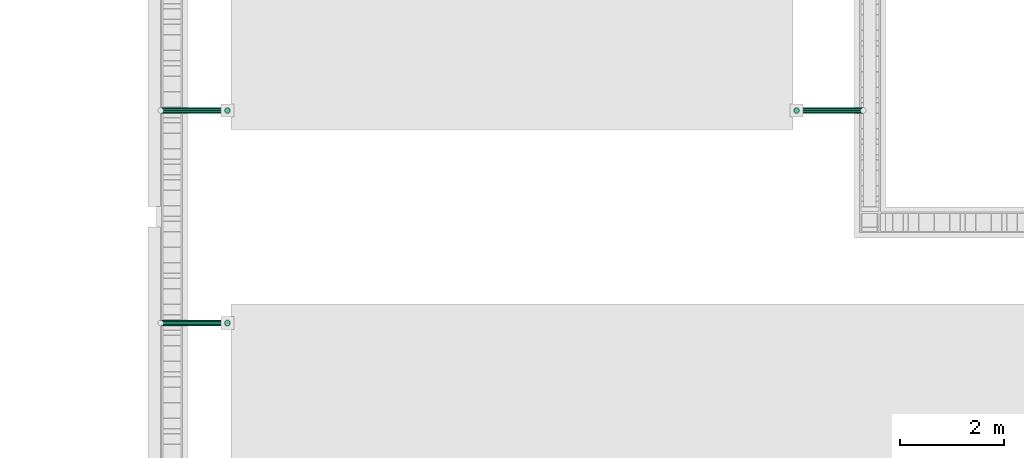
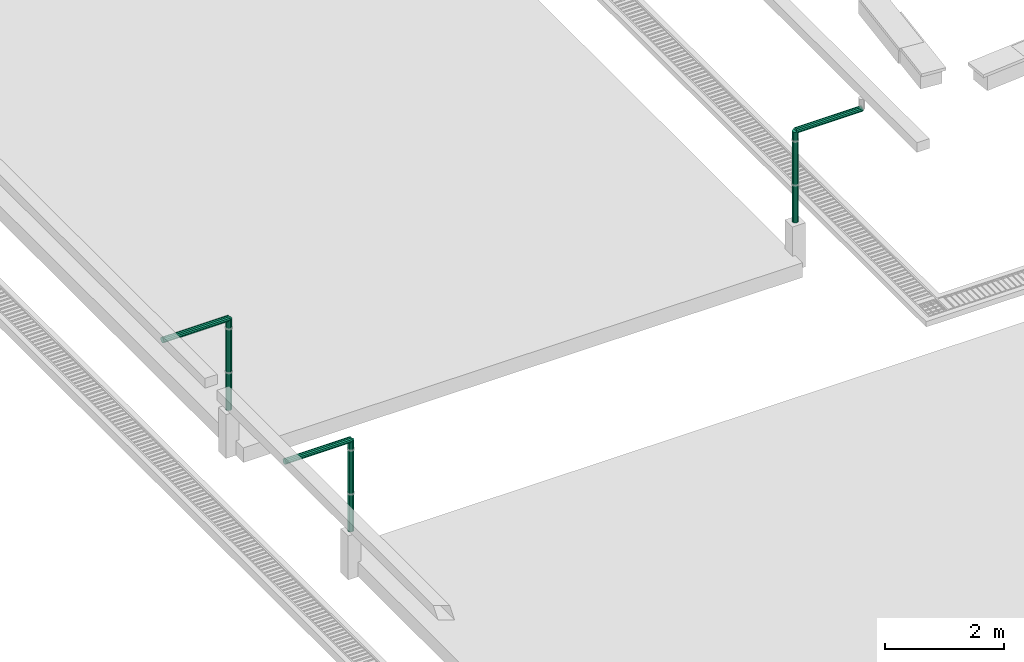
# One storey, part 33 of 90: 6 flow segments.
"""IFC2X3 building model written with IfcOpenShell, lengths in metres."""

import ifcopenshell
import ifcopenshell.guid

model = None  # the IFC model being written
_history = None  # IfcOwnerHistory: only IFC2X3 demands one
_inside = {}  # id of a spatial element -> (the spatial element, [elements in it])
_under = {}  # id of a project, library or spatial element -> (it, [spatial elements below it])
_declared = {}  # id of a project -> (the project, [libraries it declares])
_typed = {}  # id of a type object -> (the type object, [elements of that type])
_made_of = {}  # id of a material, layer set ... -> (it, [elements and type objects made of it])


def new_model(schema):
    """Start an empty IFC model of exactly this schema.

    Asked for "IFC4X3", IfcOpenShell would pick the latest addendum, in which some entities
    have other attributes; the version numbers below select the first issue.
    IFC2X3 requires an IfcOwnerHistory on every rooted entity: one is made here for all.
    """
    global model, _history
    if schema == "IFC4X3":
        model = ifcopenshell.file(schema_version=(4, 3, 0, 0))
    else:
        model = ifcopenshell.file(schema=schema)
    _inside.clear()
    _under.clear()
    _declared.clear()
    _typed.clear()
    _made_of.clear()
    _history = None
    if model.schema == "IFC2X3":
        org = make("IfcOrganization", Name="unknown")
        user = make(
            "IfcPersonAndOrganization",
            ThePerson=make("IfcPerson", FamilyName="unknown"),
            TheOrganization=org,
        )
        app = make(
            "IfcApplication",
            ApplicationDeveloper=org,
            Version="unknown",
            ApplicationFullName="unknown",
            ApplicationIdentifier="unknown",
        )
        _history = make(
            "IfcOwnerHistory",
            OwningUser=user,
            OwningApplication=app,
            ChangeAction="ADDED",
            CreationDate=0,
        )
    return model


def make(cls, **values):
    """One entity of the class cls with the attributes given. An attribute that is None is left unset."""
    return model.create_entity(
        cls, **{name: value for name, value in values.items() if value is not None}
    )


def rooted(cls, **values):
    """An entity with a GlobalId (a new one), such as an element, a storey or a relation."""
    return make(cls, GlobalId=ifcopenshell.guid.new(), OwnerHistory=_history, **values)


def si_unit(unit_type, name, prefix=None):
    """IfcSIUnit, for example si_unit("LENGTHUNIT", "METRE", prefix="MILLI")."""
    return make("IfcSIUnit", UnitType=unit_type, Prefix=prefix, Name=name)


def assignment(units):
    """IfcUnitAssignment: the units of a project."""
    return None if units is None else make("IfcUnitAssignment", Units=units)


def point(xyz):
    """IfcCartesianPoint."""
    return None if xyz is None else make("IfcCartesianPoint", Coordinates=xyz)


def direction(xyz):
    """IfcDirection."""
    return None if xyz is None else make("IfcDirection", DirectionRatios=xyz)


def frame(location, z_axis=None, x_axis=None):
    """IfcAxis2Placement3D, a coordinate frame: its origin and axes. An axis left out is left unset."""
    return make(
        "IfcAxis2Placement3D",
        Location=point(location),
        Axis=direction(z_axis),
        RefDirection=direction(x_axis),
    )


def origin():
    """The frame at (0, 0, 0) with its axes left unset."""
    return frame((0.0, 0.0, 0.0))


def origin_with_axes():
    """The frame at (0, 0, 0) with the z axis (0, 0, 1) and the x axis (1, 0, 0) written out."""
    return frame((0.0, 0.0, 0.0), z_axis=(0.0, 0.0, 1.0), x_axis=(1.0, 0.0, 0.0))


def place(relative_to, where):
    """IfcLocalPlacement: puts the frame where relative to a parent placement (None: the world)."""
    return make(
        "IfcLocalPlacement", PlacementRelTo=relative_to, RelativePlacement=where
    )


def context(
    kind, dimensions, precision=None, world=None, true_north=None, identifier=None
):
    """IfcGeometricRepresentationContext, for example the 3D "Model" context."""
    return make(
        "IfcGeometricRepresentationContext",
        ContextIdentifier=identifier,
        ContextType=kind,
        CoordinateSpaceDimension=dimensions,
        Precision=precision,
        WorldCoordinateSystem=world,
        TrueNorth=true_north,
    )


def subcontext(parent, identifier, kind, view, scale=None):
    """IfcGeometricRepresentationSubContext, for example "Body" below "Model"."""
    return make(
        "IfcGeometricRepresentationSubContext",
        ContextIdentifier=identifier,
        ContextType=kind,
        ParentContext=parent,
        TargetScale=scale,
        TargetView=view,
    )


def project(units=None, contexts=None):
    """IfcProject with its units and contexts."""
    return rooted(
        "IfcProject",
        Name="project",
        RepresentationContexts=contexts,
        UnitsInContext=assignment(units),
    )


def spatial(cls, under=None, at=None, **own):
    """A site, building, storey or space (cls), placed at a placement, below another one or the project."""
    s = rooted(cls, ObjectPlacement=at, **own)
    if under is not None:
        _under.setdefault(under.id(), (under, []))[1].append(s)
    return s


def faces_of(points, faces, orient=None, outer=None):
    """IfcFace entities. A face is a list of loops; a loop is a list of indices into points, from 0.

    orient and outer hold one flag for each loop. By default every Orientation is true, the
    first loop of a face is its IfcFaceOuterBound and the others are IfcFaceBound.
    """
    made = []
    for i, loops in enumerate(faces):
        bounds = []
        for j, loop in enumerate(loops):
            is_outer = j == 0 if outer is None else outer[i][j]
            bounds.append(
                make(
                    "IfcFaceOuterBound" if is_outer else "IfcFaceBound",
                    Bound=make("IfcPolyLoop", Polygon=[points[k] for k in loop]),
                    Orientation=True if orient is None else orient[i][j],
                )
            )
        made.append(make("IfcFace", Bounds=bounds))
    return made


def faceted_brep(points, faces, orient=None, outer=None, voids=None):
    """IfcFacetedBrep: a solid bounded by flat faces; with voids (closed shells), ...WithVoids."""
    shared = [point(p) for p in points]
    hull = make("IfcClosedShell", CfsFaces=faces_of(shared, faces, orient, outer))
    if voids is None:
        return make("IfcFacetedBrep", Outer=hull)
    return make(
        "IfcFacetedBrepWithVoids",
        Outer=hull,
        Voids=[
            make(cls, CfsFaces=faces_of(shared, fs, o, b)) for cls, fs, o, b in voids
        ],
    )


def shape(context_of_items, identifier, shape_type, items):
    """IfcShapeRepresentation: the items that make up one representation, for example the "Body"."""
    return make(
        "IfcShapeRepresentation",
        ContextOfItems=context_of_items,
        RepresentationIdentifier=identifier,
        RepresentationType=shape_type,
        Items=items,
    )


def made_of(thing, what):
    """Note that an element or type object is made of a material, layer set ...; save() writes the relation."""
    if what is not None:
        _made_of.setdefault(what.id(), (what, []))[1].append(thing)
    return thing


def element(
    cls,
    number,
    at=None,
    inside=None,
    cuts=None,
    type_object=None,
    material=None,
    context=None,
    identifier="Body",
    shape_type=None,
    held_by="IfcProductDefinitionShape",
    body=None,
    shapes=None,
    **own,
):
    """One element of the class cls, such as IfcWall. Its Tag is "e" and its number.

    at: its placement. inside: the storey or other place that contains it. cuts: it is an
    opening in that element (IfcRelVoidsElement). A single representation is given by context,
    identifier, shape_type and body (its items); several are given by shapes. held_by: the class
    of the entity that holds the representations. save() writes the other relations.
    """
    e = rooted(cls, Tag="e%d" % number, ObjectPlacement=at, **own)
    if body is not None:
        shapes = [shape(context, identifier, shape_type, body)]
    if shapes is not None:
        e.Representation = make(held_by, Representations=shapes)
    if inside is not None:
        _inside.setdefault(inside.id(), (inside, []))[1].append(e)
    if cuts is not None:
        rooted(
            "IfcRelVoidsElement", RelatingBuildingElement=cuts, RelatedOpeningElement=e
        )
    if type_object is not None:
        _typed.setdefault(type_object.id(), (type_object, []))[1].append(e)
    return made_of(e, material)


def aggregate(whole, parts):
    """IfcRelAggregates: a whole, such as a stair, and the parts it consists of."""
    return rooted("IfcRelAggregates", RelatingObject=whole, RelatedObjects=parts)


def save(model, path):
    """Write the relations noted so far, then the file.

    IfcRelAggregates (storeys below a building ...), IfcRelContainedInSpatialStructure (elements
    in a storey), IfcRelDefinesByType, IfcRelAssociatesMaterial and IfcRelDeclares: one each for
    every whole, place, type object, material and project.
    """
    for whole, parts in _under.values():
        aggregate(whole, parts)
    for where, things in _inside.values():
        rooted(
            "IfcRelContainedInSpatialStructure",
            RelatedElements=things,
            RelatingStructure=where,
        )
    for kind, things in _typed.values():
        rooted("IfcRelDefinesByType", RelatedObjects=things, RelatingType=kind)
    for what, things in _made_of.values():
        rooted("IfcRelAssociatesMaterial", RelatedObjects=things, RelatingMaterial=what)
    for by, libraries in _declared.values():
        rooted("IfcRelDeclares", RelatingContext=by, RelatedDefinitions=libraries)
    model.write(path)


model = new_model("IFC2X3")

# Units and contexts
model_context = context("Model", 3, precision=1e-05, world=origin_with_axes())
body_context = subcontext(model_context, "Body", "Model", "MODEL_VIEW")
ifc_project = project(units=[si_unit("LENGTHUNIT", "METRE"), si_unit("AREAUNIT", "SQUARE_METRE"), si_unit("VOLUMEUNIT", "CUBIC_METRE"), si_unit("PLANEANGLEUNIT", "RADIAN")], contexts=[model_context])

# Site, building, storey
site_placement = place(None, origin_with_axes())
site = spatial("IfcSite", under=ifc_project, at=site_placement, Name="Predio Los Mangos - Morales, San Martín", CompositionType="ELEMENT")
building_placement = place(site_placement, origin())
building = spatial("IfcBuilding", under=site, at=building_placement, Name="Hogar de Refugio Temporal", CompositionType="ELEMENT")
storey_placement = place(building_placement, origin())
storey = spatial("IfcBuildingStorey", under=building, at=storey_placement, Name="NIVEL 1 (NPT +0.00)", CompositionType="ELEMENT", Elevation=0.0)

# Flow segments
flow_segment_1_placement = place(storey_placement, origin())
element("IfcFlowSegment", 1, at=flow_segment_1_placement, inside=storey, Name="montante_desvio", ObjectType="Montante PVC 4\"", context=body_context, shape_type="Brep", body=[
    faceted_brep([(12.42, 48.35, 2.965), (13.71, 48.35, 2.965), (13.71, 48.3775, 2.9576), (12.42, 48.3775, 2.9576), (13.71, 48.3976, 2.9375), (12.42, 48.3976, 2.9375), (13.71, 48.405, 2.91), (12.42, 48.405, 2.91), (13.71, 48.3976, 2.8825), (12.42, 48.3976, 2.8825), (13.71, 48.3775, 2.8624), (12.42, 48.3775, 2.8624), (13.71, 48.35, 2.855), (12.42, 48.35, 2.855), (13.71, 48.3225, 2.8624), (12.42, 48.3225, 2.8624), (13.71, 48.3024, 2.8825), (12.42, 48.3024, 2.8825), (13.71, 48.295, 2.91), (12.42, 48.295, 2.91), (13.71, 48.3024, 2.9375), (12.42, 48.3024, 2.9375), (13.71, 48.3225, 2.9576), (12.42, 48.3225, 2.9576)], [[[0, 1, 2, 3]], [[3, 2, 4, 5]], [[5, 4, 6, 7]], [[7, 6, 8, 9]], [[9, 8, 10, 11]], [[11, 10, 12, 13]], [[13, 12, 14, 15]], [[15, 14, 16, 17]], [[17, 16, 18, 19]], [[19, 18, 20, 21]], [[2, 1, 22, 20, 18, 16, 14, 12, 10, 8, 6, 4]], [[21, 20, 22, 23]], [[23, 22, 1, 0]], [[0, 3, 5, 7, 9, 11, 13, 15, 17, 19, 21, 23]]]),
])
flow_segment_2_placement = place(storey_placement, origin())
element("IfcFlowSegment", 2, at=flow_segment_2_placement, inside=storey, Name="montante_bajada", ObjectType="Montante PVC 4\"", context=body_context, shape_type="Brep", body=[
    faceted_brep([(13.71, 48.405, 2.91), (13.71, 48.405, 1.05), (13.6825, 48.3976, 1.05), (13.6825, 48.3976, 2.91), (13.6624, 48.3775, 1.05), (13.6624, 48.3775, 2.91), (13.655, 48.35, 1.05), (13.655, 48.35, 2.91), (13.6624, 48.3225, 1.05), (13.6624, 48.3225, 2.91), (13.6825, 48.3024, 1.05), (13.6825, 48.3024, 2.91), (13.71, 48.295, 1.05), (13.71, 48.295, 2.91), (13.7375, 48.3024, 1.05), (13.7375, 48.3024, 2.91), (13.7576, 48.3225, 1.05), (13.7576, 48.3225, 2.91), (13.765, 48.35, 1.05), (13.765, 48.35, 2.91), (13.7576, 48.3775, 1.05), (13.7576, 48.3775, 2.91), (13.7375, 48.3976, 1.05), (13.7375, 48.3976, 2.91)], [[[0, 1, 2, 3]], [[3, 2, 4, 5]], [[5, 4, 6, 7]], [[7, 6, 8, 9]], [[9, 8, 10, 11]], [[11, 10, 12, 13]], [[13, 12, 14, 15]], [[15, 14, 16, 17]], [[17, 16, 18, 19]], [[19, 18, 20, 21]], [[2, 1, 22, 20, 18, 16, 14, 12, 10, 8, 6, 4]], [[21, 20, 22, 23]], [[23, 22, 1, 0]], [[0, 3, 5, 7, 9, 11, 13, 15, 17, 19, 21, 23]]]),
])
flow_segment_3_placement = place(storey_placement, origin())
element("IfcFlowSegment", 3, at=flow_segment_3_placement, inside=storey, Name="montante_desvio", ObjectType="Montante PVC 4\"", context=body_context, shape_type="Brep", body=[
    faceted_brep([(12.42, 52.45, 2.965), (13.71, 52.45, 2.965), (13.71, 52.4775, 2.9576), (12.42, 52.4775, 2.9576), (13.71, 52.4976, 2.9375), (12.42, 52.4976, 2.9375), (13.71, 52.505, 2.91), (12.42, 52.505, 2.91), (13.71, 52.4976, 2.8825), (12.42, 52.4976, 2.8825), (13.71, 52.4775, 2.8624), (12.42, 52.4775, 2.8624), (13.71, 52.45, 2.855), (12.42, 52.45, 2.855), (13.71, 52.4225, 2.8624), (12.42, 52.4225, 2.8624), (13.71, 52.4024, 2.8825), (12.42, 52.4024, 2.8825), (13.71, 52.395, 2.91), (12.42, 52.395, 2.91), (13.71, 52.4024, 2.9375), (12.42, 52.4024, 2.9375), (13.71, 52.4225, 2.9576), (12.42, 52.4225, 2.9576)], [[[0, 1, 2, 3]], [[3, 2, 4, 5]], [[5, 4, 6, 7]], [[7, 6, 8, 9]], [[9, 8, 10, 11]], [[11, 10, 12, 13]], [[13, 12, 14, 15]], [[15, 14, 16, 17]], [[17, 16, 18, 19]], [[19, 18, 20, 21]], [[2, 1, 22, 20, 18, 16, 14, 12, 10, 8, 6, 4]], [[21, 20, 22, 23]], [[23, 22, 1, 0]], [[0, 3, 5, 7, 9, 11, 13, 15, 17, 19, 21, 23]]]),
])
flow_segment_4_placement = place(storey_placement, origin())
element("IfcFlowSegment", 4, at=flow_segment_4_placement, inside=storey, Name="montante_bajada", ObjectType="Montante PVC 4\"", context=body_context, shape_type="Brep", body=[
    faceted_brep([(13.71, 52.505, 2.91), (13.71, 52.505, 1.05), (13.6825, 52.4976, 1.05), (13.6825, 52.4976, 2.91), (13.6624, 52.4775, 1.05), (13.6624, 52.4775, 2.91), (13.655, 52.45, 1.05), (13.655, 52.45, 2.91), (13.6624, 52.4225, 1.05), (13.6624, 52.4225, 2.91), (13.6825, 52.4024, 1.05), (13.6825, 52.4024, 2.91), (13.71, 52.395, 1.05), (13.71, 52.395, 2.91), (13.7375, 52.4024, 1.05), (13.7375, 52.4024, 2.91), (13.7576, 52.4225, 1.05), (13.7576, 52.4225, 2.91), (13.765, 52.45, 1.05), (13.765, 52.45, 2.91), (13.7576, 52.4775, 1.05), (13.7576, 52.4775, 2.91), (13.7375, 52.4976, 1.05), (13.7375, 52.4976, 2.91)], [[[0, 1, 2, 3]], [[3, 2, 4, 5]], [[5, 4, 6, 7]], [[7, 6, 8, 9]], [[9, 8, 10, 11]], [[11, 10, 12, 13]], [[13, 12, 14, 15]], [[15, 14, 16, 17]], [[17, 16, 18, 19]], [[19, 18, 20, 21]], [[2, 1, 22, 20, 18, 16, 14, 12, 10, 8, 6, 4]], [[21, 20, 22, 23]], [[23, 22, 1, 0]], [[0, 3, 5, 7, 9, 11, 13, 15, 17, 19, 21, 23]]]),
])
flow_segment_5_placement = place(storey_placement, origin())
element("IfcFlowSegment", 5, at=flow_segment_5_placement, inside=storey, Name="montante_desvio", ObjectType="Montante PVC 4\"", context=body_context, shape_type="Brep", body=[
    faceted_brep([(25.98, 52.45, 2.965), (24.69, 52.45, 2.965), (24.69, 52.4225, 2.9576), (25.98, 52.4225, 2.9576), (24.69, 52.4024, 2.9375), (25.98, 52.4024, 2.9375), (24.69, 52.395, 2.91), (25.98, 52.395, 2.91), (24.69, 52.4024, 2.8825), (25.98, 52.4024, 2.8825), (24.69, 52.4225, 2.8624), (25.98, 52.4225, 2.8624), (24.69, 52.45, 2.855), (25.98, 52.45, 2.855), (24.69, 52.4775, 2.8624), (25.98, 52.4775, 2.8624), (24.69, 52.4976, 2.8825), (25.98, 52.4976, 2.8825), (24.69, 52.505, 2.91), (25.98, 52.505, 2.91), (24.69, 52.4976, 2.9375), (25.98, 52.4976, 2.9375), (24.69, 52.4775, 2.9576), (25.98, 52.4775, 2.9576)], [[[0, 1, 2, 3]], [[3, 2, 4, 5]], [[5, 4, 6, 7]], [[7, 6, 8, 9]], [[9, 8, 10, 11]], [[11, 10, 12, 13]], [[13, 12, 14, 15]], [[15, 14, 16, 17]], [[17, 16, 18, 19]], [[19, 18, 20, 21]], [[2, 1, 22, 20, 18, 16, 14, 12, 10, 8, 6, 4]], [[21, 20, 22, 23]], [[23, 22, 1, 0]], [[0, 3, 5, 7, 9, 11, 13, 15, 17, 19, 21, 23]]]),
])
flow_segment_6_placement = place(storey_placement, origin())
element("IfcFlowSegment", 6, at=flow_segment_6_placement, inside=storey, Name="montante_bajada", ObjectType="Montante PVC 4\"", context=body_context, shape_type="Brep", body=[
    faceted_brep([(24.69, 52.505, 2.91), (24.69, 52.505, 1.05), (24.6625, 52.4976, 1.05), (24.6625, 52.4976, 2.91), (24.6424, 52.4775, 1.05), (24.6424, 52.4775, 2.91), (24.635, 52.45, 1.05), (24.635, 52.45, 2.91), (24.6424, 52.4225, 1.05), (24.6424, 52.4225, 2.91), (24.6625, 52.4024, 1.05), (24.6625, 52.4024, 2.91), (24.69, 52.395, 1.05), (24.69, 52.395, 2.91), (24.7175, 52.4024, 1.05), (24.7175, 52.4024, 2.91), (24.7376, 52.4225, 1.05), (24.7376, 52.4225, 2.91), (24.745, 52.45, 1.05), (24.745, 52.45, 2.91), (24.7376, 52.4775, 1.05), (24.7376, 52.4775, 2.91), (24.7175, 52.4976, 1.05), (24.7175, 52.4976, 2.91)], [[[0, 1, 2, 3]], [[3, 2, 4, 5]], [[5, 4, 6, 7]], [[7, 6, 8, 9]], [[9, 8, 10, 11]], [[11, 10, 12, 13]], [[13, 12, 14, 15]], [[15, 14, 16, 17]], [[17, 16, 18, 19]], [[19, 18, 20, 21]], [[2, 1, 22, 20, 18, 16, 14, 12, 10, 8, 6, 4]], [[21, 20, 22, 23]], [[23, 22, 1, 0]], [[0, 3, 5, 7, 9, 11, 13, 15, 17, 19, 21, 23]]]),
])

save(model, "model.ifc")
